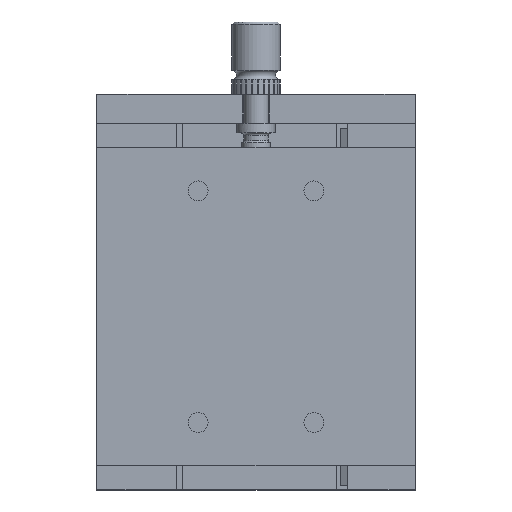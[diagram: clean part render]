
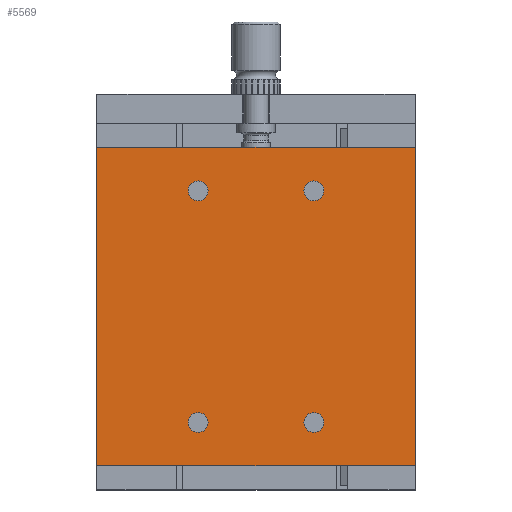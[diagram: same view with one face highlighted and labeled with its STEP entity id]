
A CAD part, front view. The second image highlights one B-rep face of the part: STEP entity #5569.
In plain terms, the highlighted planar face has unit normal (0, -1, 0).
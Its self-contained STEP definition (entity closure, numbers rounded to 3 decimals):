
#4927=CARTESIAN_POINT('',(-152.4,-93.163,64.237));
#4928=VERTEX_POINT('',#4927);
#4935=CARTESIAN_POINT('',(-86.4,-93.163,64.237));
#4936=VERTEX_POINT('',#4935);
#4937=CARTESIAN_POINT('',(-86.4,-93.163,64.237));
#4938=DIRECTION('',(-1.0,0.0,0.0));
#4939=VECTOR('',#4938,66.0);
#4940=LINE('',#4937,#4939);
#4941=EDGE_CURVE('',#4936,#4928,#4940,.T.);
#5101=CARTESIAN_POINT('',(-105.333,-93.163,7.237));
#5102=VERTEX_POINT('',#5101);
#5103=CARTESIAN_POINT('',(-107.4,-93.163,7.237));
#5104=DIRECTION('',(0.0,1.0,0.0));
#5105=DIRECTION('',(-1.0,0.0,0.0));
#5106=AXIS2_PLACEMENT_3D('',#5103,#5104,#5105);
#5107=CIRCLE('',#5106,2.067);
#5108=EDGE_CURVE('',#5102,#5102,#5107,.T.);
#5169=CARTESIAN_POINT('',(-105.333,-93.163,55.237));
#5170=VERTEX_POINT('',#5169);
#5171=CARTESIAN_POINT('',(-107.4,-93.163,55.237));
#5172=DIRECTION('',(0.0,1.0,0.0));
#5173=DIRECTION('',(-1.0,0.0,0.0));
#5174=AXIS2_PLACEMENT_3D('',#5171,#5172,#5173);
#5175=CIRCLE('',#5174,2.067);
#5176=EDGE_CURVE('',#5170,#5170,#5175,.T.);
#5237=CARTESIAN_POINT('',(-129.333,-93.163,7.237));
#5238=VERTEX_POINT('',#5237);
#5239=CARTESIAN_POINT('',(-131.4,-93.163,7.237));
#5240=DIRECTION('',(0.0,1.0,0.0));
#5241=DIRECTION('',(-1.0,0.0,0.0));
#5242=AXIS2_PLACEMENT_3D('',#5239,#5240,#5241);
#5243=CIRCLE('',#5242,2.067);
#5244=EDGE_CURVE('',#5238,#5238,#5243,.T.);
#5305=CARTESIAN_POINT('',(-129.333,-93.163,55.237));
#5306=VERTEX_POINT('',#5305);
#5307=CARTESIAN_POINT('',(-131.4,-93.163,55.237));
#5308=DIRECTION('',(0.0,1.0,0.0));
#5309=DIRECTION('',(-1.0,0.0,0.0));
#5310=AXIS2_PLACEMENT_3D('',#5307,#5308,#5309);
#5311=CIRCLE('',#5310,2.067);
#5312=EDGE_CURVE('',#5306,#5306,#5311,.T.);
#5527=CARTESIAN_POINT('',(-86.4,-93.163,-1.763));
#5528=DIRECTION('',(0.0,-1.0,0.0));
#5529=DIRECTION('',(0.0,0.0,-1.0));
#5530=AXIS2_PLACEMENT_3D('',#5527,#5528,#5529);
#5531=PLANE('',#5530);
#5532=ORIENTED_EDGE('',*,*,#4941,.T.);
#5533=CARTESIAN_POINT('',(-152.4,-93.163,-1.763));
#5534=VERTEX_POINT('',#5533);
#5535=CARTESIAN_POINT('',(-152.4,-93.163,-1.763));
#5536=DIRECTION('',(0.0,0.0,1.0));
#5537=VECTOR('',#5536,66.0);
#5538=LINE('',#5535,#5537);
#5539=EDGE_CURVE('',#5534,#4928,#5538,.T.);
#5540=ORIENTED_EDGE('',*,*,#5539,.F.);
#5541=CARTESIAN_POINT('',(-86.4,-93.163,-1.763));
#5542=VERTEX_POINT('',#5541);
#5543=CARTESIAN_POINT('',(-152.4,-93.163,-1.763));
#5544=DIRECTION('',(1.0,0.0,0.0));
#5545=VECTOR('',#5544,66.0);
#5546=LINE('',#5543,#5545);
#5547=EDGE_CURVE('',#5534,#5542,#5546,.T.);
#5548=ORIENTED_EDGE('',*,*,#5547,.T.);
#5549=CARTESIAN_POINT('',(-86.4,-93.163,-1.763));
#5550=DIRECTION('',(0.0,0.0,1.0));
#5551=VECTOR('',#5550,66.0);
#5552=LINE('',#5549,#5551);
#5553=EDGE_CURVE('',#5542,#4936,#5552,.T.);
#5554=ORIENTED_EDGE('',*,*,#5553,.T.);
#5555=EDGE_LOOP('',(#5532,#5540,#5548,#5554));
#5556=FACE_OUTER_BOUND('',#5555,.T.);
#5557=ORIENTED_EDGE('',*,*,#5108,.T.);
#5558=EDGE_LOOP('',(#5557));
#5559=FACE_BOUND('',#5558,.T.);
#5560=ORIENTED_EDGE('',*,*,#5176,.T.);
#5561=EDGE_LOOP('',(#5560));
#5562=FACE_BOUND('',#5561,.T.);
#5563=ORIENTED_EDGE('',*,*,#5244,.T.);
#5564=EDGE_LOOP('',(#5563));
#5565=FACE_BOUND('',#5564,.T.);
#5566=ORIENTED_EDGE('',*,*,#5312,.T.);
#5567=EDGE_LOOP('',(#5566));
#5568=FACE_BOUND('',#5567,.T.);
#5569=ADVANCED_FACE('',(#5556,#5559,#5562,#5565,#5568),#5531,.T.);
